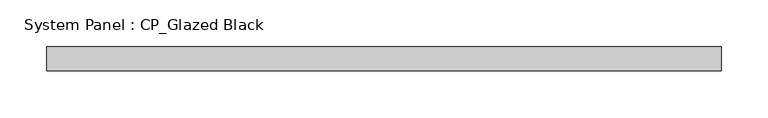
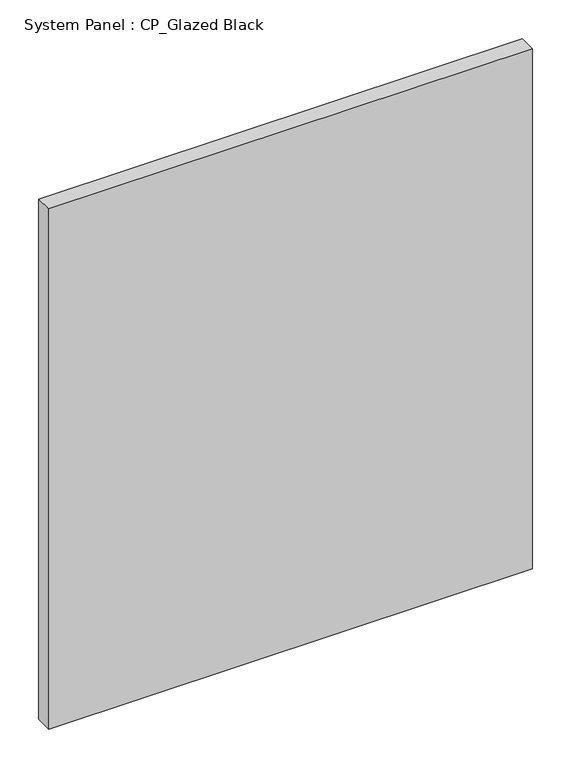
"""IFC4 building model written with IfcOpenShell, lengths in millimetres: plate geometry, System Panel : CP_Glazed Black."""

from ifc_helpers import new_model, si_unit, origin, origin_with_axes, place, context, project, spatial, polyline, outline, extrude, source, transform, mapped, element, save


def system_panel_cp_glazed_black_14de10b5(model_context):
    return source(origin(), model_context, "Body", "SweptSolid", [
        extrude(outline(polyline([(360.2110069, 19.05), (-360.2110069, 19.05), (-360.2110069, 44.45), (360.2110069, 44.45), (360.2110069, 19.05)])), origin_with_axes(), (0.0, 0.0, 1.0), 819.15),
    ])


if __name__ == "__main__":
    model = new_model("IFC4")
    model_context = context("Model", 3, world=origin())
    ifc_project = project(units=[si_unit("LENGTHUNIT", "METRE", prefix="MILLI")], contexts=[model_context])
    site = spatial("IfcSite", under=ifc_project)
    building = spatial("IfcBuilding", under=site)
    placement = place(None, origin())
    system_panel_cp_glazed_black_shape = system_panel_cp_glazed_black_14de10b5(model_context)
    element("IfcPlate", 1, ObjectType="System Panel : CP_Glazed Black", at=placement, inside=building, context=model_context, shape_type="MappedRepresentation", body=[
        mapped(system_panel_cp_glazed_black_shape, transform((0.0, 0.0, 0.0), x_axis=(1.0, 0.0, 0.0), y_axis=(0.0, 1.0, 0.0), z_axis=(0.0, 0.0, 1.0))),
    ])
    save(model, "model.ifc")
